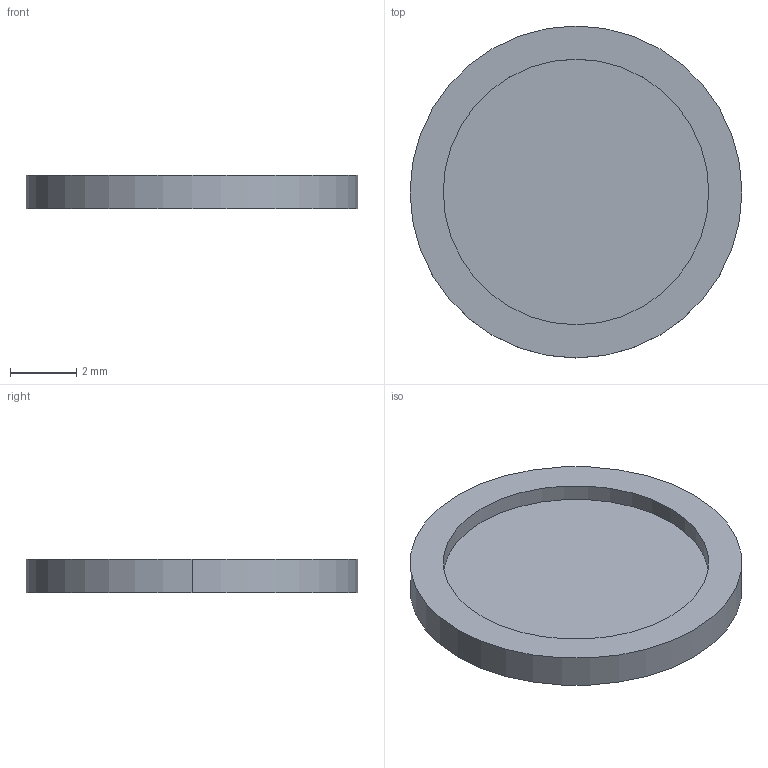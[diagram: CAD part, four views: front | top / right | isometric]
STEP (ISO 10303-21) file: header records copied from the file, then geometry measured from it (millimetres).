
FILE_DESCRIPTION (( 'STEP AP214' ), '1' );
FILE_NAME ('Íîæêà êíîïêè.STEP', '2021-11-10T11:29:05', ( 'j03075@gmail.com' ), ( '' ), 'SwSTEP 2.0', 'SolidWorks 2021', '' );
FILE_SCHEMA (( 'AUTOMOTIVE_DESIGN' ));
Length unit declared in the file: millimetre
Products named in the file (1): Íîæêà êíîïêè
Bounding box: 10 x 10 x 1 mm (x, y, z)
Volume: 53.4 mm3; surface area: 201.1 mm2
Topology: 1 solids, 1 shells, 7 faces, 12 edges, 8 vertices
Faces by surface type: cylinder 4, plane 3
Entity records: 208 total; most frequent: DIRECTION 36, CARTESIAN_POINT 28, ORIENTED_EDGE 24, AXIS2_PLACEMENT_3D 16, EDGE_CURVE 12, CIRCLE 8, VERTEX_POINT 8, EDGE_LOOP 8
